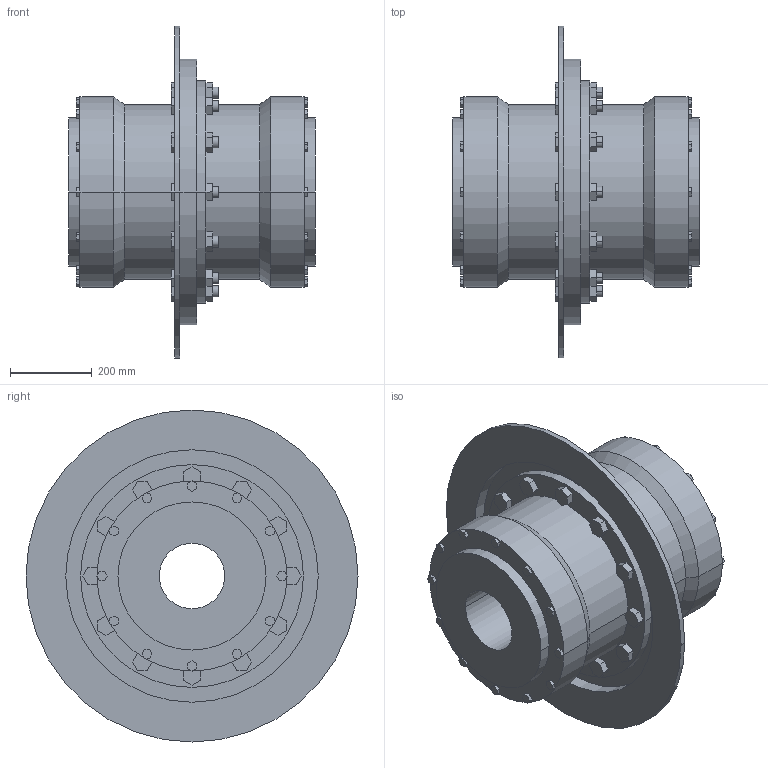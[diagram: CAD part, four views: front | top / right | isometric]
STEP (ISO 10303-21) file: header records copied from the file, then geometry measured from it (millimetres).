
FILE_DESCRIPTION((''),'2;1');
FILE_NAME('A19102000-0_ASM','2019-05-23T',('AB_Roschiwal'),('RENK AG'),'PRO/ENGINEER BY PARAMETRIC TECHNOLOGY CORPORATION, 2015440','PRO/ENGINEER BY PARAMETRIC TECHNOLOGY CORPORATION, 2015440','');
FILE_SCHEMA(('CONFIG_CONTROL_DESIGN'));
Length unit declared in the file: millimetre
Products named in the file (4): SBKT225_GEHAEUSE; SBKT225_NABE; SBKT225_BREMSSCHEIBE; A19102000-0_ASM
Assembly tree (4 placements, depth 2):
  A19102000-0_ASM
    SBKT225_GEHAEUSE
    SBKT225_NABE  x2
    SBKT225_BREMSSCHEIBE
Bounding box: 604 x 812 x 812 mm (x, y, z)
Volume: 80493953.6 mm3; surface area: 4345458 mm2
Topology: 4 solids, 4 shells, 470 faces, 1156 edges, 768 vertices
Faces by surface type: plane 370, cylinder 96, cone 4
Entity records: 13604 total; most frequent: CARTESIAN_POINT 2350, ORIENTED_EDGE 2264, DIRECTION 2240, EDGE_CURVE 1132, VECTOR 956, LINE 956, VERTEX_POINT 752, AXIS2_PLACEMENT_3D 642
